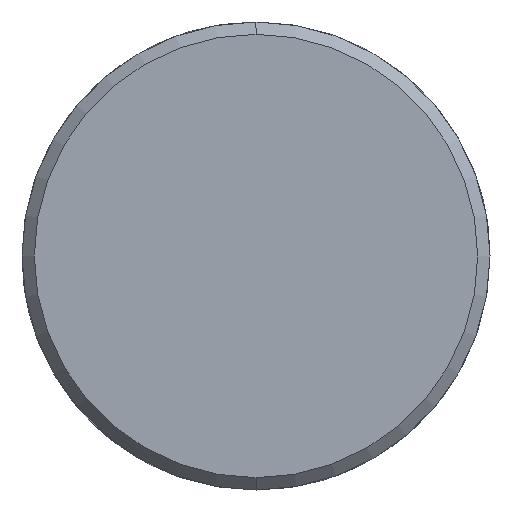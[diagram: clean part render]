
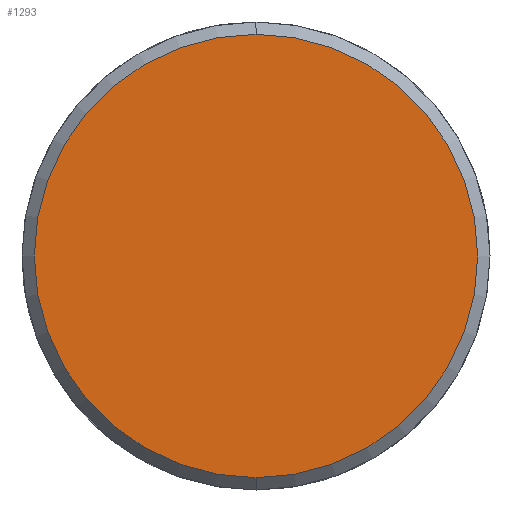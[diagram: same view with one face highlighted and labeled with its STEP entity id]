
A CAD part, left-side view. The second image highlights one B-rep face of the part: STEP entity #1293.
In plain terms, the highlighted planar face has unit normal (-1, 0, 0).
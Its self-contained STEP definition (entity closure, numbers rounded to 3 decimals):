
#1225=CARTESIAN_POINT('Vertex',(-7.,0.,-18.)) ;
#1228=CARTESIAN_POINT('Axis2P3D Location',(-7.,0.,0.)) ;
#1232=CARTESIAN_POINT('Vertex',(-7.,18.,0.)) ;
#1235=CARTESIAN_POINT('Axis2P3D Location',(-7.,0.,0.)) ;
#1239=CARTESIAN_POINT('Vertex',(-7.,0.,18.)) ;
#1261=CARTESIAN_POINT('Axis2P3D Location',(-7.,0.,0.)) ;
#1265=CARTESIAN_POINT('Vertex',(-7.,-18.,0.)) ;
#1268=CARTESIAN_POINT('Axis2P3D Location',(-7.,0.,0.)) ;
#1282=CARTESIAN_POINT('Axis2P3D Location',(-7.,0.,0.)) ;
#1229=DIRECTION('Axis2P3D Direction',(1.,0.,-0.)) ;
#1236=DIRECTION('Axis2P3D Direction',(1.,0.,-0.)) ;
#1262=DIRECTION('Axis2P3D Direction',(1.,0.,-0.)) ;
#1269=DIRECTION('Axis2P3D Direction',(1.,0.,-0.)) ;
#1283=DIRECTION('Axis2P3D Direction',(1.,0.,-0.)) ;
#1284=DIRECTION('Axis2P3D XDirection',(-0.,0.,-1.)) ;
#1230=AXIS2_PLACEMENT_3D('Circle Axis2P3D',#1228,#1229,$) ;
#1237=AXIS2_PLACEMENT_3D('Circle Axis2P3D',#1235,#1236,$) ;
#1263=AXIS2_PLACEMENT_3D('Circle Axis2P3D',#1261,#1262,$) ;
#1270=AXIS2_PLACEMENT_3D('Circle Axis2P3D',#1268,#1269,$) ;
#1285=AXIS2_PLACEMENT_3D('Plane Axis2P3D',#1282,#1283,#1284) ;
#1288=ORIENTED_EDGE('',*,*,#1234,.F.) ;
#1289=ORIENTED_EDGE('',*,*,#1272,.F.) ;
#1290=ORIENTED_EDGE('',*,*,#1267,.F.) ;
#1291=ORIENTED_EDGE('',*,*,#1241,.F.) ;
#1293=ADVANCED_FACE('351-25X76X180',(#1292),#1286,.F.) ;
#1231=CIRCLE('generated circle',#1230,18.) ;
#1238=CIRCLE('generated circle',#1237,18.) ;
#1264=CIRCLE('generated circle',#1263,18.) ;
#1271=CIRCLE('generated circle',#1270,18.) ;
#1234=EDGE_CURVE('',#1226,#1233,#1231,.T.) ;
#1241=EDGE_CURVE('',#1233,#1240,#1238,.T.) ;
#1267=EDGE_CURVE('',#1240,#1266,#1264,.T.) ;
#1272=EDGE_CURVE('',#1266,#1226,#1271,.T.) ;
#1287=EDGE_LOOP('',(#1288,#1289,#1290,#1291)) ;
#1292=FACE_OUTER_BOUND('',#1287,.T.) ;
#1286=PLANE('Plane',#1285) ;
#1226=VERTEX_POINT('',#1225) ;
#1233=VERTEX_POINT('',#1232) ;
#1240=VERTEX_POINT('',#1239) ;
#1266=VERTEX_POINT('',#1265) ;
